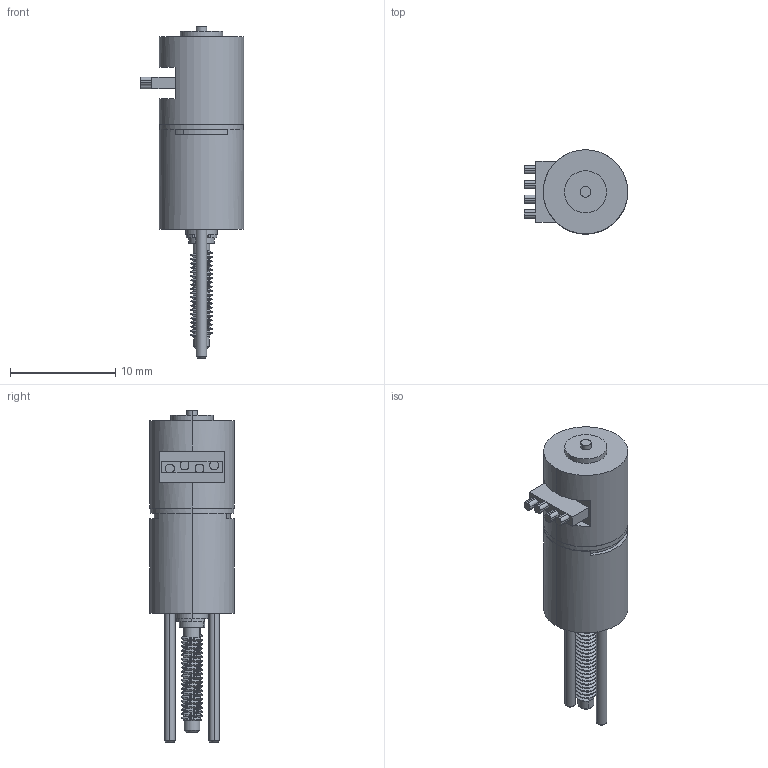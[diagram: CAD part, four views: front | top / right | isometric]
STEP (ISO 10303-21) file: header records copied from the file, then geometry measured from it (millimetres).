
FILE_DESCRIPTION (( 'STEP AP203' ), '1' );
FILE_NAME ('ƒÓ8L_MUI102103-20141216.STEP', '2014-12-16T08:45:44', ( '' ), ( '' ), 'SwSTEP 2.0', 'SolidWorks 2013', '' );
FILE_SCHEMA (( 'CONFIG_CONTROL_DESIGN' ));
Length unit declared in the file: millimetre
Products named in the file (1): 冇8L_MUI102103-20141216
Bounding box: 9.8 x 8 x 31.5 mm (x, y, z)
Volume: 952.3 mm3; surface area: 1148.7 mm2
Topology: 5 solids, 6 shells, 234 faces, 612 edges, 400 vertices
Faces by surface type: cylinder 156, plane 64, cone 12, bspline 2
Entity records: 8761 total; most frequent: CARTESIAN_POINT 3220, ORIENTED_EDGE 1224, DIRECTION 1104, EDGE_CURVE 612, AXIS2_PLACEMENT_3D 420, VERTEX_POINT 400, VECTOR 264, LINE 264
